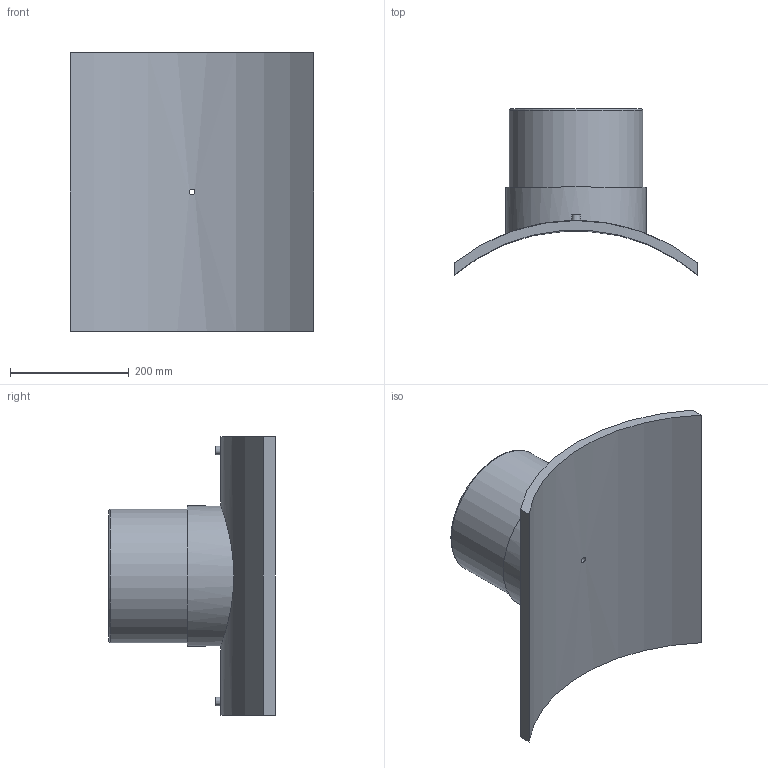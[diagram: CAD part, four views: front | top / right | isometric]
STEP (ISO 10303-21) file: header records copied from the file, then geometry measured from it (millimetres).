
FILE_DESCRIPTION(/* description */ ('PLASSON BRANCH SADDLE 630x225'),/* implementation_level */ '2;1');
FILE_NAME(/* name */ 'C:\Dropbox\KIMPROJECTS-Inventor 2019\99-16-3568-Processing\ElectroFusion Fittings\495803\stp\495803630225T.stp',/* time_stamp */ '2024-04-04T11:53:35+02:00',/* author */ ('KIM'),/* organization */ (''),/* preprocessor_version */ 'ST-DEVELOPER v17.2',/* originating_system */ 'Autodesk Inventor 2019',/* authorisation */ '');
FILE_SCHEMA (('AUTOMOTIVE_DESIGN { 1 0 10303 214 3 1 1 }','PROCESS_PLANNING_SCHEMA'));
Length unit declared in the file: millimetre
Products named in the file (1): 495803630225T
Bounding box: 410 x 280.83 x 470 mm (x, y, z)
Volume: 6442881.4 mm3; surface area: 713034.2 mm2
Topology: 1 solids, 1 shells, 29 faces, 60 edges, 43 vertices
Faces by surface type: plane 13, cylinder 12, torus 2, cone 2
Full cylindrical faces by diameter (mm): 4 x2, 9.6 x1, 10 x2, 16 x1, 180 x1, 225 x1, 236.25 x1
Entity records: 1086 total; most frequent: CARTESIAN_POINT 400, DIRECTION 139, ORIENTED_EDGE 120, EDGE_CURVE 60, AXIS2_PLACEMENT_3D 60, VERTEX_POINT 43, EDGE_LOOP 41, CIRCLE 30
